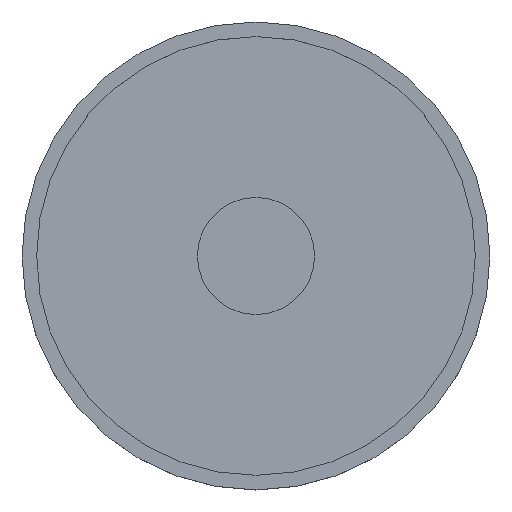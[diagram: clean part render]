
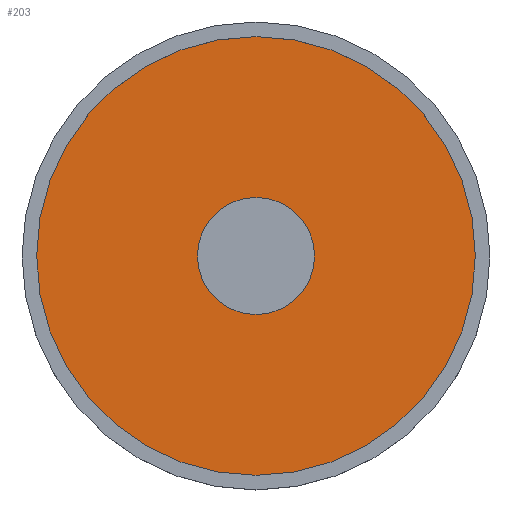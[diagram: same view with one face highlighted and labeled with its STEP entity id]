
A CAD part, top view. The second image highlights one B-rep face of the part: STEP entity #203.
In plain terms, the highlighted planar face has unit normal (0, 0, 1).
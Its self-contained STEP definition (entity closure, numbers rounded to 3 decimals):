
#137 = CYLINDRICAL_SURFACE('',#138,45.);
#138 = AXIS2_PLACEMENT_3D('',#139,#140,#141);
#139 = CARTESIAN_POINT('',(0.,0.,5.));
#140 = DIRECTION('',(-0.,-0.,-1.));
#141 = DIRECTION('',(1.,0.,0.));
#152 = EDGE_CURVE('',#153,#153,#155,.T.);
#153 = VERTEX_POINT('',#154);
#154 = CARTESIAN_POINT('',(45.,0.,5.));
#155 = SURFACE_CURVE('',#156,(#161,#168),.PCURVE_S1.);
#156 = CIRCLE('',#157,45.);
#157 = AXIS2_PLACEMENT_3D('',#158,#159,#160);
#158 = CARTESIAN_POINT('',(0.,0.,5.));
#159 = DIRECTION('',(0.,0.,1.));
#160 = DIRECTION('',(1.,0.,0.));
#161 = PCURVE('',#137,#162);
#162 = DEFINITIONAL_REPRESENTATION('',(#163),#167);
#163 = LINE('',#164,#165);
#164 = CARTESIAN_POINT('',(-0.,0.));
#165 = VECTOR('',#166,1.);
#166 = DIRECTION('',(-1.,0.));
#167 = ( GEOMETRIC_REPRESENTATION_CONTEXT(2) 
PARAMETRIC_REPRESENTATION_CONTEXT() REPRESENTATION_CONTEXT('2D SPACE',''
  ) );
#168 = PCURVE('',#169,#174);
#169 = PLANE('',#170);
#170 = AXIS2_PLACEMENT_3D('',#171,#172,#173);
#171 = CARTESIAN_POINT('',(0.,0.,5.));
#172 = DIRECTION('',(0.,0.,1.));
#173 = DIRECTION('',(1.,0.,-0.));
#174 = DEFINITIONAL_REPRESENTATION('',(#175),#179);
#175 = CIRCLE('',#176,45.);
#176 = AXIS2_PLACEMENT_2D('',#177,#178);
#177 = CARTESIAN_POINT('',(0.,0.));
#178 = DIRECTION('',(1.,0.));
#179 = ( GEOMETRIC_REPRESENTATION_CONTEXT(2) 
PARAMETRIC_REPRESENTATION_CONTEXT() REPRESENTATION_CONTEXT('2D SPACE',''
  ) );
#203 = ADVANCED_FACE('',(#204,#207),#169,.T.);
#204 = FACE_BOUND('',#205,.T.);
#205 = EDGE_LOOP('',(#206));
#206 = ORIENTED_EDGE('',*,*,#152,.T.);
#207 = FACE_BOUND('',#208,.T.);
#208 = EDGE_LOOP('',(#209));
#209 = ORIENTED_EDGE('',*,*,#210,.T.);
#210 = EDGE_CURVE('',#211,#211,#213,.T.);
#211 = VERTEX_POINT('',#212);
#212 = CARTESIAN_POINT('',(12.,0.,5.));
#213 = SURFACE_CURVE('',#214,(#219,#230),.PCURVE_S1.);
#214 = CIRCLE('',#215,12.);
#215 = AXIS2_PLACEMENT_3D('',#216,#217,#218);
#216 = CARTESIAN_POINT('',(0.,0.,5.));
#217 = DIRECTION('',(0.,0.,-1.));
#218 = DIRECTION('',(1.,0.,0.));
#219 = PCURVE('',#169,#220);
#220 = DEFINITIONAL_REPRESENTATION('',(#221),#229);
#221 = ( BOUNDED_CURVE() B_SPLINE_CURVE(2,(#222,#223,#224,#225,#226,#227
,#228),.UNSPECIFIED.,.T.,.F.) B_SPLINE_CURVE_WITH_KNOTS((1,2,2,2,2,1),(
    -2.094,0.,2.094,4.189,6.283,
8.378),.UNSPECIFIED.) CURVE() GEOMETRIC_REPRESENTATION_ITEM() 
RATIONAL_B_SPLINE_CURVE((1.,0.5,1.,0.5,1.,0.5,1.)) REPRESENTATION_ITEM(
  '') );
#222 = CARTESIAN_POINT('',(12.,0.));
#223 = CARTESIAN_POINT('',(12.,-20.785));
#224 = CARTESIAN_POINT('',(-6.,-10.392));
#225 = CARTESIAN_POINT('',(-24.,0.));
#226 = CARTESIAN_POINT('',(-6.,10.392));
#227 = CARTESIAN_POINT('',(12.,20.785));
#228 = CARTESIAN_POINT('',(12.,0.));
#229 = ( GEOMETRIC_REPRESENTATION_CONTEXT(2) 
PARAMETRIC_REPRESENTATION_CONTEXT() REPRESENTATION_CONTEXT('2D SPACE',''
  ) );
#230 = PCURVE('',#231,#236);
#231 = CYLINDRICAL_SURFACE('',#232,12.);
#232 = AXIS2_PLACEMENT_3D('',#233,#234,#235);
#233 = CARTESIAN_POINT('',(0.,0.,4.));
#234 = DIRECTION('',(-0.,-0.,-1.));
#235 = DIRECTION('',(1.,0.,0.));
#236 = DEFINITIONAL_REPRESENTATION('',(#237),#241);
#237 = LINE('',#238,#239);
#238 = CARTESIAN_POINT('',(-6.283,-1.));
#239 = VECTOR('',#240,1.);
#240 = DIRECTION('',(1.,-0.));
#241 = ( GEOMETRIC_REPRESENTATION_CONTEXT(2) 
PARAMETRIC_REPRESENTATION_CONTEXT() REPRESENTATION_CONTEXT('2D SPACE',''
  ) );
